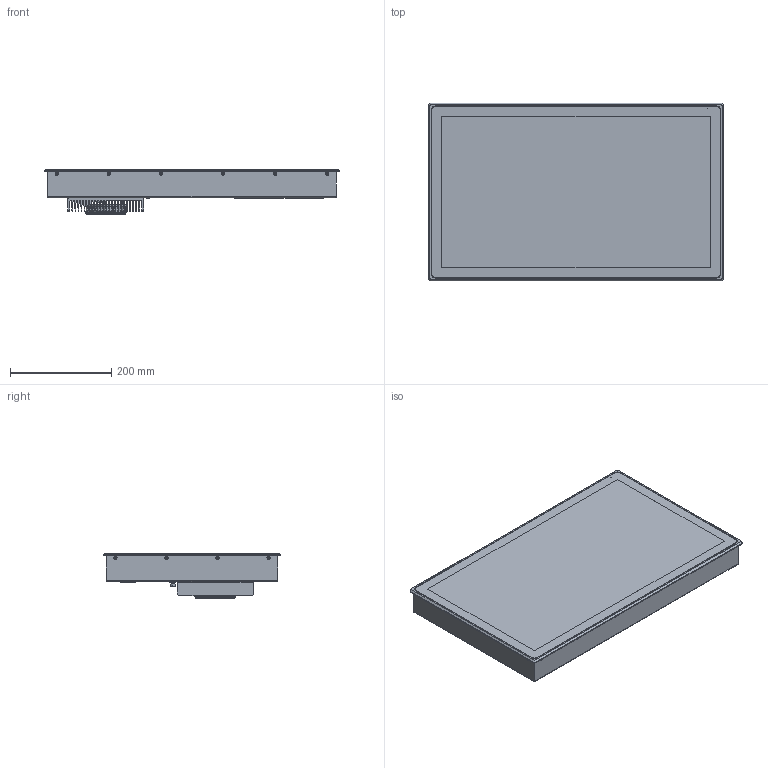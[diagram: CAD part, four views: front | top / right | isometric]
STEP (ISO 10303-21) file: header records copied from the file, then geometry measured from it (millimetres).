
FILE_DESCRIPTION(/* description */ (''),/* implementation_level */ '2;1');
FILE_NAME(/* name */ 'C:\SAPInventorWork\778-41947-00_EXTERN.stp',/* time_stamp */ '2025-01-30T13:20:28+01:00',/* author */ ('Aiple'),/* organization */ (''),/* preprocessor_version */ 'ST-DEVELOPER v18.1',/* originating_system */ 'Autodesk Inventor 2021',/* authorisation */ '');
FILE_SCHEMA (('AUTOMOTIVE_DESIGN { 1 0 10303 214 3 1 1 }'));
Products named in the file (1): 778-41947-00
Bounding box: 584.4 x 352 x 90.8 mm (x, y, z)
Volume: 10682555.8 mm3; surface area: 719640 mm2
Topology: 9 solids, 82 shells, 8586 faces, 24913 edges, 16521 vertices
Faces by surface type: plane 5152, cylinder 2110, bspline 878, cone 341, torus 72, sphere 33
Full cylindrical faces by diameter (mm): 0.457 x1, 0.65 x16, 0.95 x32, 1.2 x27, 2.156 x2, 2.2 x1, 2.459 x18, 2.5 x2, 2.8 x6, 2.9 x2, 2.91 x2, 3 x26, 3.242 x18, 3.5 x34, 4 x10, 4.22 x8, 4.3 x12, 4.7 x2, 4.917 x4, 5 x3, 5.2 x1, 5.3 x2, 5.38 x14, 5.4 x14, 5.54 x24, 5.7 x1, 6.85 x3, 7 x4, 7.06 x1, 8.72 x4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
Entity records: 314178 total; most frequent: CARTESIAN_POINT 83627, ORIENTED_EDGE 48332, DIRECTION 41842, EDGE_CURVE 24905, LINE 17056, VECTOR 17056, VERTEX_POINT 16553, AXIS2_PLACEMENT_3D 12393
